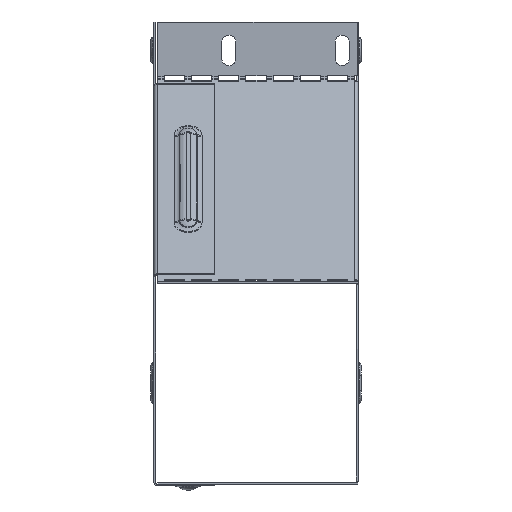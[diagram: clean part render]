
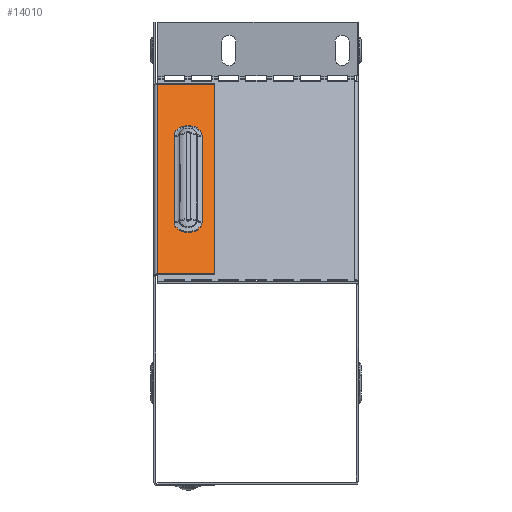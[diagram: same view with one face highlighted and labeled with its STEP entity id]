
A CAD part, left-side view. The second image highlights one B-rep face of the part: STEP entity #14010.
In plain terms, the highlighted planar face has unit normal (-0.707, 0, 0.707).
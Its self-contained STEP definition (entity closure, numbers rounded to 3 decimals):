
#315 = CARTESIAN_POINT ( 'NONE',  ( -147.917, 101.899, 103.96 ) ) ;
#741 = VECTOR ( 'NONE', #17097, 1000. ) ;
#1180 = CIRCLE ( 'NONE', #18990, 6.917 ) ;
#1513 = CIRCLE ( 'NONE', #16873, 6.917 ) ;
#2530 = VERTEX_POINT ( 'NONE', #13996 ) ;
#4214 = CARTESIAN_POINT ( 'NONE',  ( -53.96, 70.8, 197.917 ) ) ;
#4847 = CARTESIAN_POINT ( 'NONE',  ( -53.96, 99., 197.917 ) ) ;
#4903 = DIRECTION ( 'NONE',  ( 0.707, 0., 0.707 ) ) ;
#5531 = ORIENTED_EDGE ( 'NONE', *, *, #24835, .T. ) ;
#5668 = LINE ( 'NONE', #23557, #18688 ) ;
#5788 = VERTEX_POINT ( 'NONE', #12839 ) ;
#5896 = VECTOR ( 'NONE', #6122, 1000. ) ;
#6122 = DIRECTION ( 'NONE',  ( -0.707, 0., -0.707 ) ) ;
#6291 = DIRECTION ( 'NONE',  ( 0.707, 0., -0.707 ) ) ;
#6527 = EDGE_LOOP ( 'NONE', ( #14000, #13572, #13737, #7584 ) ) ;
#6779 = EDGE_LOOP ( 'NONE', ( #11275, #15682, #15328, #5531 ) ) ;
#7584 = ORIENTED_EDGE ( 'NONE', *, *, #9815, .F. ) ;
#8012 = CARTESIAN_POINT ( 'NONE',  ( -53.96, 100.8, 197.917 ) ) ;
#9174 = VERTEX_POINT ( 'NONE', #4847 ) ;
#9815 = EDGE_CURVE ( 'NONE', #18924, #9174, #17596, .T. ) ;
#10737 = DIRECTION ( 'NONE',  ( -0.707, 0., -0.707 ) ) ;
#11066 = DIRECTION ( 'NONE',  ( 0.707, 0., -0.707 ) ) ;
#11275 = ORIENTED_EDGE ( 'NONE', *, *, #16282, .T. ) ;
#12463 = VERTEX_POINT ( 'NONE', #24815 ) ;
#12839 = CARTESIAN_POINT ( 'NONE',  ( -79.725, 90.817, 172.152 ) ) ;
#13034 = EDGE_CURVE ( 'NONE', #26856, #12463, #14667, .T. ) ;
#13137 = VERTEX_POINT ( 'NONE', #4214 ) ;
#13572 = ORIENTED_EDGE ( 'NONE', *, *, #21761, .T. ) ;
#13700 = CARTESIAN_POINT ( 'NONE',  ( -79.725, 90.817, 172.152 ) ) ;
#13737 = ORIENTED_EDGE ( 'NONE', *, *, #19454, .F. ) ;
#13878 = LINE ( 'NONE', #8012, #22030 ) ;
#13996 = CARTESIAN_POINT ( 'NONE',  ( -147.917, 70.8, 103.96 ) ) ;
#14000 = ORIENTED_EDGE ( 'NONE', *, *, #14729, .F. ) ;
#14010 = ADVANCED_FACE ( 'NONE', ( #17566, #22471 ), #16917, .F. ) ;
#14067 = DIRECTION ( 'NONE',  ( 0., -1., 0. ) ) ;
#14120 = CARTESIAN_POINT ( 'NONE',  ( -79.725, 83.9, 172.152 ) ) ;
#14271 = VECTOR ( 'NONE', #14789, 1000. ) ;
#14369 = CARTESIAN_POINT ( 'NONE',  ( -79.725, 76.983, 172.152 ) ) ;
#14667 = LINE ( 'NONE', #26960, #5896 ) ;
#14729 = EDGE_CURVE ( 'NONE', #2530, #18924, #15266, .T. ) ;
#14789 = DIRECTION ( 'NONE',  ( 0., 1., 0. ) ) ;
#15065 = DIRECTION ( 'NONE',  ( -0.5, 0.707, -0.5 ) ) ;
#15266 = LINE ( 'NONE', #315, #14271 ) ;
#15328 = ORIENTED_EDGE ( 'NONE', *, *, #13034, .T. ) ;
#15513 = CARTESIAN_POINT ( 'NONE',  ( -122.152, 90.817, 129.725 ) ) ;
#15682 = ORIENTED_EDGE ( 'NONE', *, *, #26391, .T. ) ;
#16260 = DIRECTION ( 'NONE',  ( 0.707, 0., 0.707 ) ) ;
#16282 = EDGE_CURVE ( 'NONE', #23880, #5788, #16326, .T. ) ;
#16326 = LINE ( 'NONE', #13700, #20571 ) ;
#16873 = AXIS2_PLACEMENT_3D ( 'NONE', #21097, #11066, #15065 ) ;
#16917 = PLANE ( 'NONE',  #20475 ) ;
#17013 = CARTESIAN_POINT ( 'NONE',  ( -51.838, 99., 200.038 ) ) ;
#17097 = DIRECTION ( 'NONE',  ( 0.707, 0., 0.707 ) ) ;
#17566 = FACE_BOUND ( 'NONE', #6779, .T. ) ;
#17596 = LINE ( 'NONE', #17013, #741 ) ;
#18149 = DIRECTION ( 'NONE',  ( 0.707, 0., -0.707 ) ) ;
#18234 = DIRECTION ( 'NONE',  ( -0.5, 0.707, -0.5 ) ) ;
#18688 = VECTOR ( 'NONE', #4903, 1000. ) ;
#18924 = VERTEX_POINT ( 'NONE', #19376 ) ;
#18990 = AXIS2_PLACEMENT_3D ( 'NONE', #14120, #18149, #18234 ) ;
#19376 = CARTESIAN_POINT ( 'NONE',  ( -147.917, 99., 103.96 ) ) ;
#19454 = EDGE_CURVE ( 'NONE', #9174, #13137, #13878, .T. ) ;
#20475 = AXIS2_PLACEMENT_3D ( 'NONE', #20750, #6291, #10737 ) ;
#20571 = VECTOR ( 'NONE', #16260, 1000. ) ;
#20750 = CARTESIAN_POINT ( 'NONE',  ( -125.938, 100.8, 125.938 ) ) ;
#21097 = CARTESIAN_POINT ( 'NONE',  ( -122.152, 83.9, 129.725 ) ) ;
#21761 = EDGE_CURVE ( 'NONE', #2530, #13137, #5668, .T. ) ;
#22030 = VECTOR ( 'NONE', #14067, 1000. ) ;
#22471 = FACE_OUTER_BOUND ( 'NONE', #6527, .T. ) ;
#23557 = CARTESIAN_POINT ( 'NONE',  ( -125.938, 70.8, 125.938 ) ) ;
#23880 = VERTEX_POINT ( 'NONE', #15513 ) ;
#24815 = CARTESIAN_POINT ( 'NONE',  ( -122.152, 76.983, 129.725 ) ) ;
#24835 = EDGE_CURVE ( 'NONE', #12463, #23880, #1513, .T. ) ;
#26391 = EDGE_CURVE ( 'NONE', #5788, #26856, #1180, .T. ) ;
#26856 = VERTEX_POINT ( 'NONE', #14369 ) ;
#26960 = CARTESIAN_POINT ( 'NONE',  ( -79.725, 76.983, 172.152 ) ) ;
